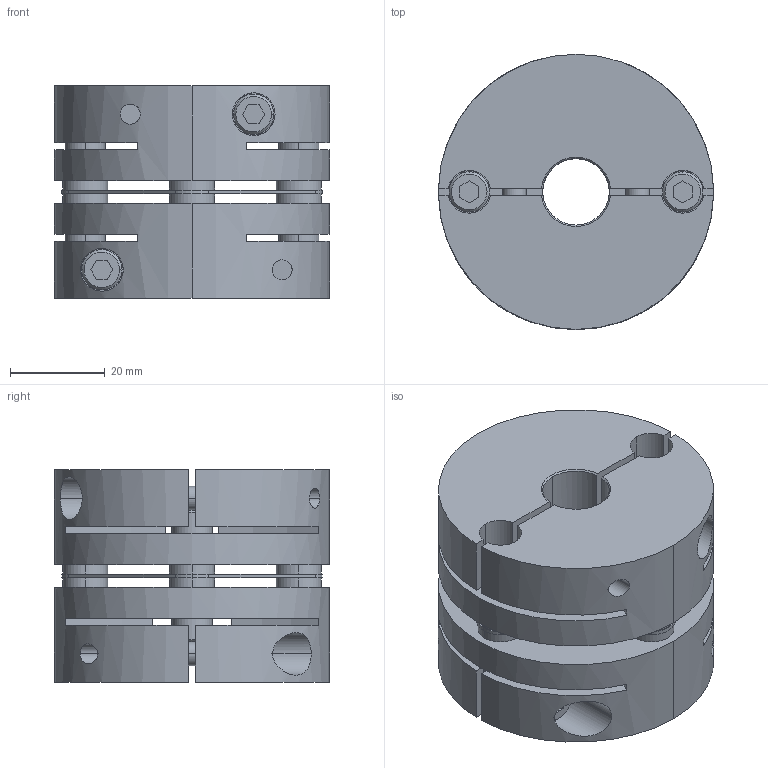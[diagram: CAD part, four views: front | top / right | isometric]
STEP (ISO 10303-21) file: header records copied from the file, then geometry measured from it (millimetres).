
FILE_DESCRIPTION((''),'2;1');
FILE_NAME('LAS-58C-14×19.stp','2015-10-15T14:45:44',(''),(''),'AutoCAD STEP 2000i','AutoCAD 2000i',', , ');
FILE_SCHEMA(('CONFIG_CONTROL_DESIGN'));
Length unit declared in the file: millimetre
Products named in the file (6): LAS-58C-12×19; 忣兜1; LA-5802-D19; LA-5802-D12-1; LA-5802-D12; LAS58-ITA
Assembly tree (5 placements, depth 2):
  LAS-58C-12×19
    忣兜1
    LA-5802-D19
    LA-5802-D12-1
    LA-5802-D12
    LAS58-ITA
Bounding box: 58 x 58 x 44.8 mm (x, y, z)
Volume: 87624.5 mm3; surface area: 33353 mm2
Topology: 1 solids, 1 shells, 238 faces, 618 edges, 404 vertices
Faces by surface type: plane 114, cylinder 96, cone 28
Entity records: 8213 total; most frequent: CARTESIAN_POINT 1988, DIRECTION 1316, ORIENTED_EDGE 1240, EDGE_CURVE 620, AXIS2_PLACEMENT_3D 484, VERTEX_POINT 404, VECTOR 348, LINE 348
